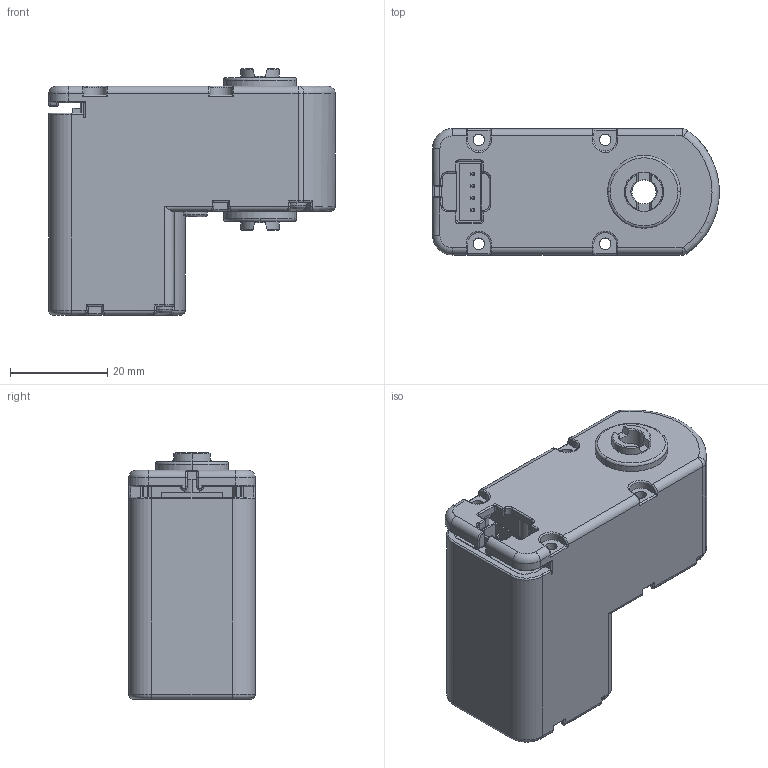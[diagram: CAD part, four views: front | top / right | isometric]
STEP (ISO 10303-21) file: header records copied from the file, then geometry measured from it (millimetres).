
FILE_DESCRIPTION (( 'STEP AP214' ), '1' );
FILE_NAME ('RS60x.STEP', '2008-08-07T04:47:39', ( 'cada3' ), ( '双葉電子工業（株）' ), 'SwSTEP 2.0', 'SolidWorks 2008', '' );
FILE_SCHEMA (( 'AUTOMOTIVE_DESIGN' ));
Length unit declared in the file: millimetre
Products named in the file (1): RS60x
Bounding box: 59 x 26 x 50.7 mm (x, y, z)
Volume: 50186.5 mm3; surface area: 11994.6 mm2
Topology: 1 solids, 1 shells, 502 faces, 1271 edges, 775 vertices
Faces by surface type: cylinder 199, plane 187, torus 58, bspline 34, cone 20, sphere 4
Entity records: 18593 total; most frequent: CARTESIAN_POINT 6806, ORIENTED_EDGE 2526, DIRECTION 2420, EDGE_CURVE 1263, AXIS2_PLACEMENT_3D 882, VERTEX_POINT 773, VECTOR 656, LINE 656
